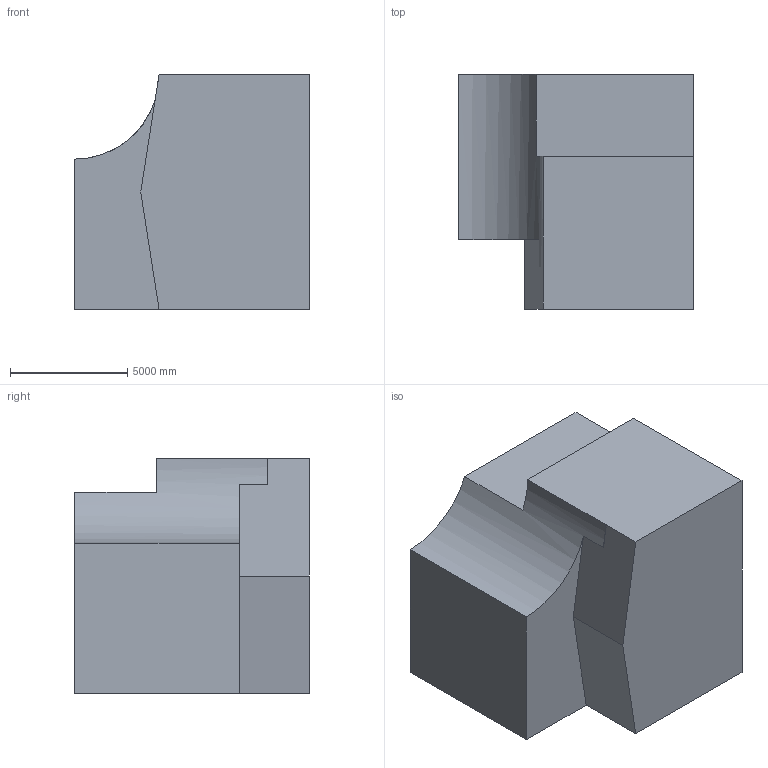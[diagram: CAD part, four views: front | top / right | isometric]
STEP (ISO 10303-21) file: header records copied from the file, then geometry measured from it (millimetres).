
FILE_DESCRIPTION (( 'STEP AP203' ), '1' );
FILE_NAME ('1258.STEP', '2022-08-18T13:25:57', ( 'user' ), ( '' ), 'SwSTEP 2.0', 'SolidWorks 2021', '' );
FILE_SCHEMA (( 'CONFIG_CONTROL_DESIGN' ));
Length unit declared in the file: centimetre
Products named in the file (1): 1258
Bounding box: 10000 x 10000 x 10000 mm (x, y, z)
Volume: 800306615199 mm3; surface area: 538655722.3 mm2
Topology: 1 solids, 1 shells, 13 faces, 32 edges, 21 vertices
Faces by surface type: plane 12, cylinder 1
Entity records: 459 total; most frequent: CARTESIAN_POINT 67, ORIENTED_EDGE 64, DIRECTION 64, EDGE_CURVE 32, LINE 28, VECTOR 28, VERTEX_POINT 21, AXIS2_PLACEMENT_3D 18
